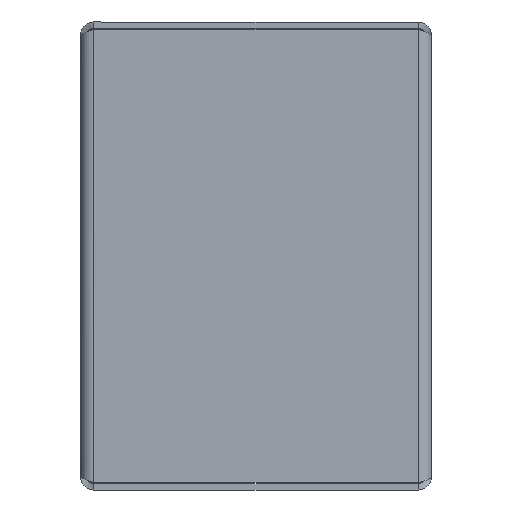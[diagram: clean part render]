
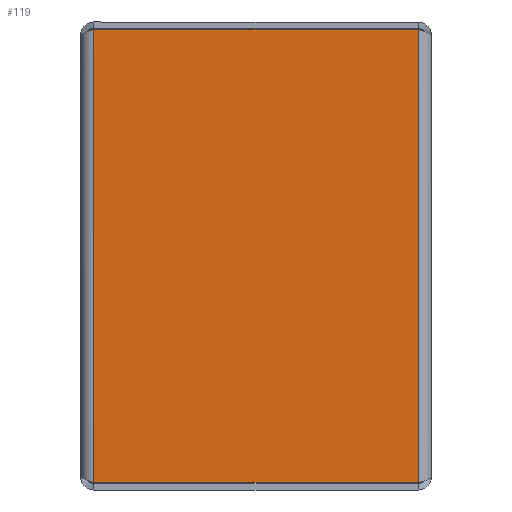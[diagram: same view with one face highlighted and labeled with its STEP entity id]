
A CAD part, left-side view. The second image highlights one B-rep face of the part: STEP entity #119.
In plain terms, the highlighted planar face has unit normal (-1, 0, 0).
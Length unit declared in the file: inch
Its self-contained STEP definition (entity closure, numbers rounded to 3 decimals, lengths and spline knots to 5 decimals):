
#3 = ORIENTED_EDGE ( 'NONE', *, *, #678, .F. ) ;
#119 = ADVANCED_FACE ( 'NONE', ( #256 ), #1218, .F. ) ;
#173 = ORIENTED_EDGE ( 'NONE', *, *, #2630, .F. ) ;
#191 = VERTEX_POINT ( 'NONE', #1825 ) ;
#193 = ORIENTED_EDGE ( 'NONE', *, *, #1184, .F. ) ;
#256 = FACE_OUTER_BOUND ( 'NONE', #650, .T. ) ;
#505 = DIRECTION ( 'NONE',  ( 0., -1., 0. ) ) ;
#544 = LINE ( 'NONE', #2725, #2240 ) ;
#638 = VECTOR ( 'NONE', #980, 39.37008 ) ;
#650 = EDGE_LOOP ( 'NONE', ( #173, #3, #193, #1776 ) ) ;
#678 = EDGE_CURVE ( 'NONE', #2681, #2638, #544, .T. ) ;
#743 = CARTESIAN_POINT ( 'NONE',  ( 0., 3., -3.93793 ) ) ;
#832 = AXIS2_PLACEMENT_3D ( 'NONE', #2568, #2557, #990 ) ;
#895 = LINE ( 'NONE', #2274, #1998 ) ;
#980 = DIRECTION ( 'NONE',  ( 0., 1., 0. ) ) ;
#990 = DIRECTION ( 'NONE',  ( 0., 1., 0. ) ) ;
#1057 = LINE ( 'NONE', #1175, #2207 ) ;
#1138 = EDGE_CURVE ( 'NONE', #1630, #191, #1057, .T. ) ;
#1175 = CARTESIAN_POINT ( 'NONE',  ( 0., 2.885, -4. ) ) ;
#1180 = LINE ( 'NONE', #743, #638 ) ;
#1184 = EDGE_CURVE ( 'NONE', #191, #2681, #895, .T. ) ;
#1218 = PLANE ( 'NONE',  #832 ) ;
#1234 = CARTESIAN_POINT ( 'NONE',  ( 0., 0.115, -0.06207 ) ) ;
#1396 = DIRECTION ( 'NONE',  ( 0., 0., -1. ) ) ;
#1630 = VERTEX_POINT ( 'NONE', #1873 ) ;
#1776 = ORIENTED_EDGE ( 'NONE', *, *, #1138, .F. ) ;
#1825 = CARTESIAN_POINT ( 'NONE',  ( 0., 2.885, -0.06207 ) ) ;
#1873 = CARTESIAN_POINT ( 'NONE',  ( 0., 2.885, -3.93793 ) ) ;
#1998 = VECTOR ( 'NONE', #505, 39.37008 ) ;
#2207 = VECTOR ( 'NONE', #2497, 39.37008 ) ;
#2240 = VECTOR ( 'NONE', #1396, 39.37008 ) ;
#2274 = CARTESIAN_POINT ( 'NONE',  ( 0., 3., -0.06207 ) ) ;
#2294 = CARTESIAN_POINT ( 'NONE',  ( 0., 0.115, -3.93793 ) ) ;
#2497 = DIRECTION ( 'NONE',  ( 0., 0., 1. ) ) ;
#2557 = DIRECTION ( 'NONE',  ( 1., 0., 0. ) ) ;
#2568 = CARTESIAN_POINT ( 'NONE',  ( 0., 3., -4. ) ) ;
#2630 = EDGE_CURVE ( 'NONE', #2638, #1630, #1180, .T. ) ;
#2638 = VERTEX_POINT ( 'NONE', #2294 ) ;
#2681 = VERTEX_POINT ( 'NONE', #1234 ) ;
#2725 = CARTESIAN_POINT ( 'NONE',  ( 0., 0.115, -0.06207 ) ) ;
